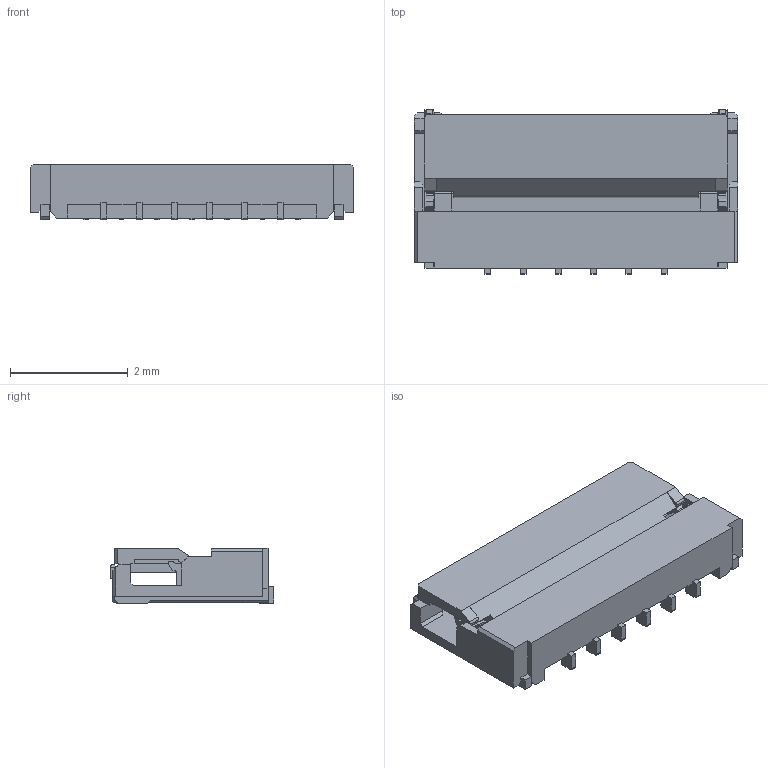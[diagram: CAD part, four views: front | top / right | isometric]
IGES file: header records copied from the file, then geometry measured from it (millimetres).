
Start section: SolidWorks IGES file using analytic representation for surfaces
Bounding box: 5.5 x 2.79 x 0.95 mm (x, y, z)
Surface area: 65.5 mm2 (no closed solid volume)
Topology: 0 solids, 0 shells, 403 faces, 2528 edges, 2527 vertices
Faces by surface type: bspline 326, revolution 77
